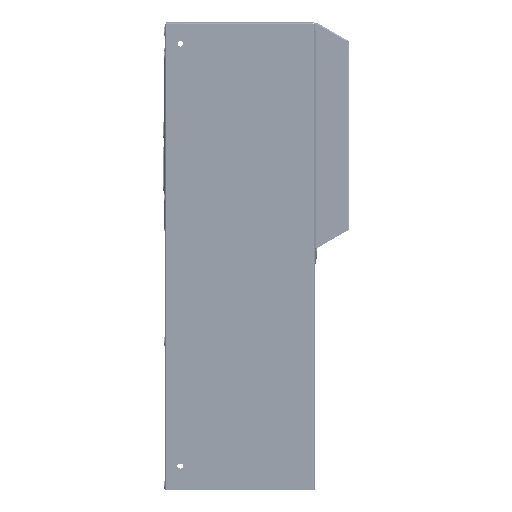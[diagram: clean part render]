
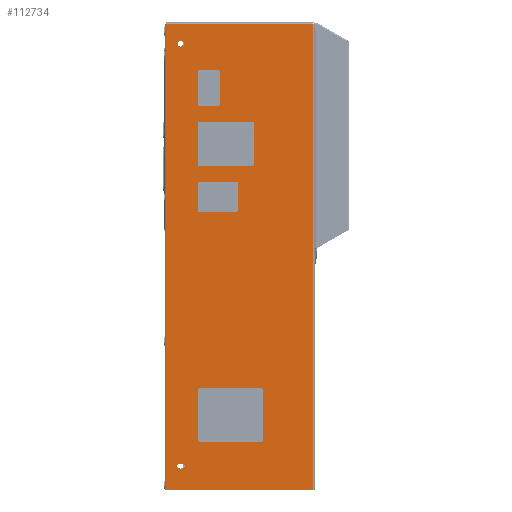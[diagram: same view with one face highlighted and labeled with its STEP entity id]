
A CAD part, top view. The second image highlights one B-rep face of the part: STEP entity #112734.
In plain terms, the highlighted planar face has unit normal (0, 0, 1).
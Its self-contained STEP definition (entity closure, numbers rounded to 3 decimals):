
#2771 = AXIS2_PLACEMENT_3D ( 'NONE', #379133, #162711, #415506 ) ;
#4471 = CARTESIAN_POINT ( 'NONE',  ( -211.437, -331.778, 197.5 ) ) ;
#5525 = DIRECTION ( 'NONE',  ( 0., 0., -1. ) ) ;
#6295 = DIRECTION ( 'NONE',  ( 0., -1., 0. ) ) ;
#13637 = VERTEX_POINT ( 'NONE', #465706 ) ;
#16170 = VECTOR ( 'NONE', #430614, 1000. ) ;
#20222 = CARTESIAN_POINT ( 'NONE',  ( -237.624, 369.412, 197.5 ) ) ;
#32480 = CIRCLE ( 'NONE', #416995, 3.962 ) ;
#35469 = VERTEX_POINT ( 'NONE', #416037 ) ;
#53989 = VECTOR ( 'NONE', #255163, 1000. ) ;
#58998 = CARTESIAN_POINT ( 'NONE',  ( -211.437, -339.702, 197.5 ) ) ;
#59640 = ORIENTED_EDGE ( 'NONE', *, *, #293369, .F. ) ;
#67034 = LINE ( 'NONE', #186355, #247875 ) ;
#72457 = EDGE_CURVE ( 'NONE', #13637, #442572, #96668, .T. ) ;
#85293 = VECTOR ( 'NONE', #257195, 1000. ) ;
#89461 = VERTEX_POINT ( 'NONE', #300681 ) ;
#92890 = EDGE_CURVE ( 'NONE', #270202, #100570, #337421, .T. ) ;
#96668 = LINE ( 'NONE', #4471, #85293 ) ;
#100570 = VERTEX_POINT ( 'NONE', #146038 ) ;
#112734 = ADVANCED_FACE ( 'NONE', ( #178376, #359290, #263207 ), #258242, .F. ) ;
#114574 = DIRECTION ( 'NONE',  ( -1., 0., 0. ) ) ;
#119598 = ORIENTED_EDGE ( 'NONE', *, *, #375894, .F. ) ;
#146038 = CARTESIAN_POINT ( 'NONE',  ( -208.856, 338.804, 197.5 ) ) ;
#146360 = AXIS2_PLACEMENT_3D ( 'NONE', #368548, #152215, #404956 ) ;
#146755 = LINE ( 'NONE', #243943, #338832 ) ;
#148899 = VERTEX_POINT ( 'NONE', #198313 ) ;
#152215 = DIRECTION ( 'NONE',  ( 0., 0., 1. ) ) ;
#152389 = DIRECTION ( 'NONE',  ( 0., 0., 1. ) ) ;
#156918 = CARTESIAN_POINT ( 'NONE',  ( -211.437, -335.74, 197.5 ) ) ;
#161763 = DIRECTION ( 'NONE',  ( 0., 0., 1. ) ) ;
#162711 = DIRECTION ( 'NONE',  ( 0., 0., 1. ) ) ;
#174181 = CARTESIAN_POINT ( 'NONE',  ( -215.399, -331.778, 197.5 ) ) ;
#177728 = CARTESIAN_POINT ( 'NONE',  ( -211.437, -339.702, 197.5 ) ) ;
#178376 = FACE_BOUND ( 'NONE', #221997, .T. ) ;
#186355 = CARTESIAN_POINT ( 'NONE',  ( -237.624, 371.364, 197.5 ) ) ;
#191930 = CARTESIAN_POINT ( 'NONE',  ( -218.386, 338.804, 197.5 ) ) ;
#193238 = DIRECTION ( 'NONE',  ( 1., 0., 0. ) ) ;
#197448 = EDGE_CURVE ( 'NONE', #89461, #210394, #342198, .T. ) ;
#198313 = CARTESIAN_POINT ( 'NONE',  ( -215.399, -339.702, 197.5 ) ) ;
#201545 = ORIENTED_EDGE ( 'NONE', *, *, #366248, .T. ) ;
#205332 = EDGE_CURVE ( 'NONE', #100570, #270202, #276131, .T. ) ;
#210394 = VERTEX_POINT ( 'NONE', #20222 ) ;
#218855 = CARTESIAN_POINT ( 'NONE',  ( -1.976, 369.412, 197.5 ) ) ;
#221997 = EDGE_LOOP ( 'NONE', ( #324197, #418407 ) ) ;
#222446 = CIRCLE ( 'NONE', #2771, 3.962 ) ;
#225224 = CIRCLE ( 'NONE', #304391, 3.962 ) ;
#237614 = EDGE_CURVE ( 'NONE', #148899, #420703, #293028, .T. ) ;
#239739 = CARTESIAN_POINT ( 'NONE',  ( -207.474, -335.74, 197.5 ) ) ;
#243943 = CARTESIAN_POINT ( 'NONE',  ( -1.976, -373.34, 197.5 ) ) ;
#247875 = VECTOR ( 'NONE', #6295, 1000. ) ;
#255163 = DIRECTION ( 'NONE',  ( -1., 0., 0. ) ) ;
#257195 = DIRECTION ( 'NONE',  ( -1., 0., 0. ) ) ;
#258242 = PLANE ( 'NONE',  #410704 ) ;
#263207 = FACE_OUTER_BOUND ( 'NONE', #273305, .T. ) ;
#263228 = ORIENTED_EDGE ( 'NONE', *, *, #349555, .F. ) ;
#270202 = VERTEX_POINT ( 'NONE', #191930 ) ;
#273305 = EDGE_LOOP ( 'NONE', ( #450991, #201545, #330634, #263228 ) ) ;
#276131 = CIRCLE ( 'NONE', #146360, 4.765 ) ;
#282468 = EDGE_LOOP ( 'NONE', ( #366370, #364287, #59640, #467086, #119598 ) ) ;
#293028 = LINE ( 'NONE', #177728, #16170 ) ;
#293369 = EDGE_CURVE ( 'NONE', #420703, #438274, #225224, .T. ) ;
#294446 = CARTESIAN_POINT ( 'NONE',  ( -1.214, 371.364, 197.5 ) ) ;
#300681 = CARTESIAN_POINT ( 'NONE',  ( -1.976, 369.412, 197.5 ) ) ;
#304391 = AXIS2_PLACEMENT_3D ( 'NONE', #156918, #409665, #193238 ) ;
#324197 = ORIENTED_EDGE ( 'NONE', *, *, #205332, .F. ) ;
#330634 = ORIENTED_EDGE ( 'NONE', *, *, #383981, .T. ) ;
#337421 = CIRCLE ( 'NONE', #371116, 4.765 ) ;
#338832 = VECTOR ( 'NONE', #352855, 1000. ) ;
#342198 = LINE ( 'NONE', #218855, #53989 ) ;
#348906 = VECTOR ( 'NONE', #424815, 1000. ) ;
#349555 = EDGE_CURVE ( 'NONE', #89461, #383541, #146755, .T. ) ;
#352855 = DIRECTION ( 'NONE',  ( 0., -1., 0. ) ) ;
#357045 = CARTESIAN_POINT ( 'NONE',  ( -1.976, -373.34, 197.5 ) ) ;
#359290 = FACE_BOUND ( 'NONE', #282468, .T. ) ;
#364287 = ORIENTED_EDGE ( 'NONE', *, *, #437039, .F. ) ;
#366248 = EDGE_CURVE ( 'NONE', #210394, #35469, #67034, .T. ) ;
#366370 = ORIENTED_EDGE ( 'NONE', *, *, #72457, .F. ) ;
#368548 = CARTESIAN_POINT ( 'NONE',  ( -213.621, 338.804, 197.5 ) ) ;
#368716 = CARTESIAN_POINT ( 'NONE',  ( -213.621, 338.804, 197.5 ) ) ;
#371116 = AXIS2_PLACEMENT_3D ( 'NONE', #368716, #152389, #405133 ) ;
#375894 = EDGE_CURVE ( 'NONE', #442572, #148899, #222446, .T. ) ;
#378217 = CARTESIAN_POINT ( 'NONE',  ( -211.437, -335.74, 197.5 ) ) ;
#379133 = CARTESIAN_POINT ( 'NONE',  ( -215.399, -335.74, 197.5 ) ) ;
#383541 = VERTEX_POINT ( 'NONE', #357045 ) ;
#383981 = EDGE_CURVE ( 'NONE', #35469, #383541, #445082, .T. ) ;
#388404 = CARTESIAN_POINT ( 'NONE',  ( -1.214, -373.34, 197.5 ) ) ;
#404956 = DIRECTION ( 'NONE',  ( 1., 0., 0. ) ) ;
#405133 = DIRECTION ( 'NONE',  ( 1., 0., 0. ) ) ;
#409665 = DIRECTION ( 'NONE',  ( 0., 0., 1. ) ) ;
#410704 = AXIS2_PLACEMENT_3D ( 'NONE', #294446, #5525, #114574 ) ;
#414589 = DIRECTION ( 'NONE',  ( 1., 0., 0. ) ) ;
#415506 = DIRECTION ( 'NONE',  ( 1., 0., 0. ) ) ;
#416037 = CARTESIAN_POINT ( 'NONE',  ( -237.624, -373.34, 197.5 ) ) ;
#416995 = AXIS2_PLACEMENT_3D ( 'NONE', #378217, #161763, #414589 ) ;
#418407 = ORIENTED_EDGE ( 'NONE', *, *, #92890, .F. ) ;
#420703 = VERTEX_POINT ( 'NONE', #58998 ) ;
#424815 = DIRECTION ( 'NONE',  ( 1., 0., 0. ) ) ;
#430614 = DIRECTION ( 'NONE',  ( 1., 0., 0. ) ) ;
#437039 = EDGE_CURVE ( 'NONE', #438274, #13637, #32480, .T. ) ;
#438274 = VERTEX_POINT ( 'NONE', #239739 ) ;
#442572 = VERTEX_POINT ( 'NONE', #174181 ) ;
#445082 = LINE ( 'NONE', #388404, #348906 ) ;
#450991 = ORIENTED_EDGE ( 'NONE', *, *, #197448, .T. ) ;
#465706 = CARTESIAN_POINT ( 'NONE',  ( -211.437, -331.778, 197.5 ) ) ;
#467086 = ORIENTED_EDGE ( 'NONE', *, *, #237614, .F. ) ;
